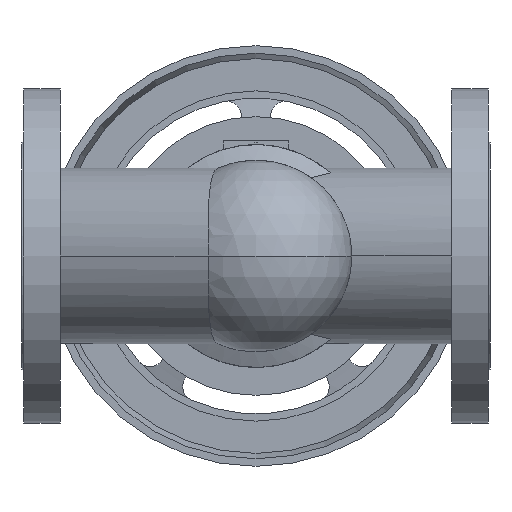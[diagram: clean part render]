
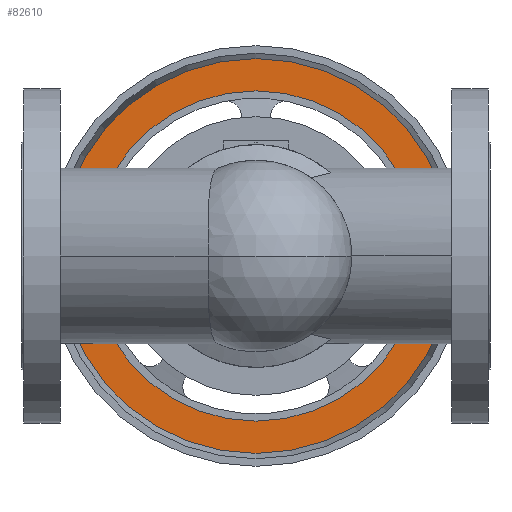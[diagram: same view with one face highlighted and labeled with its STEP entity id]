
A CAD part, front view. The second image highlights one B-rep face of the part: STEP entity #82610.
In plain terms, the highlighted planar face has unit normal (0, -1, 0).
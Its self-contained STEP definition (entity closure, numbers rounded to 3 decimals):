
#82060=CARTESIAN_POINT('',(34.838,595.5,0.));
#82070=VERTEX_POINT('',#82060);
#82150=CARTESIAN_POINT('',(410.162,595.5,0.)
);
#82160=VERTEX_POINT('',#82150);
#82190=CARTESIAN_POINT('',(222.5,595.5,0.));
#82200=DIRECTION('',(0.,1.,0.));
#82210=DIRECTION('',(-1.,0.,0.));
#82220=AXIS2_PLACEMENT_3D('',#82190,#82200,#82210);
#82230=CIRCLE('',#82220,187.662);
#82240=EDGE_CURVE('',#82070,#82160,#82230,.T.);
#82360=CARTESIAN_POINT('',(50.169,595.5,0.));
#82370=DIRECTION('',(0.,-1.,0.));
#82380=DIRECTION('',(1.,0.,0.));
#82390=AXIS2_PLACEMENT_3D('',#82360,#82370,#82380);
#82400=PLANE('',#82390);
#82410=EDGE_CURVE('',#82160,#82070,#82230,.T.);
#82420=ORIENTED_EDGE('',*,*,#82410,.F.);
#82430=ORIENTED_EDGE('',*,*,#82240,.F.);
#82440=EDGE_LOOP('',(#82430,#82420));
#82450=FACE_OUTER_BOUND('',#82440,.T.);
#82460=CARTESIAN_POINT('',(222.5,595.5,0.));
#82470=DIRECTION('',(0.,1.,0.));
#82480=DIRECTION('',(-1.,0.,0.));
#82490=AXIS2_PLACEMENT_3D('',#82460,#82470,#82480);
#82500=CIRCLE('',#82490,157.);
#82510=CARTESIAN_POINT('',(65.5,595.5,0.));
#82520=VERTEX_POINT('',#82510);
#82530=CARTESIAN_POINT('',(379.5,595.5,0.));
#82540=VERTEX_POINT('',#82530);
#82550=EDGE_CURVE('',#82520,#82540,#82500,.T.);
#82560=ORIENTED_EDGE('',*,*,#82550,.T.);
#82570=EDGE_CURVE('',#82540,#82520,#82500,.T.);
#82580=ORIENTED_EDGE('',*,*,#82570,.T.);
#82590=EDGE_LOOP('',(#82580,#82560));
#82600=FACE_BOUND('',#82590,.T.);
#82610=ADVANCED_FACE('',(#82450,#82600),#82400,.T.);
